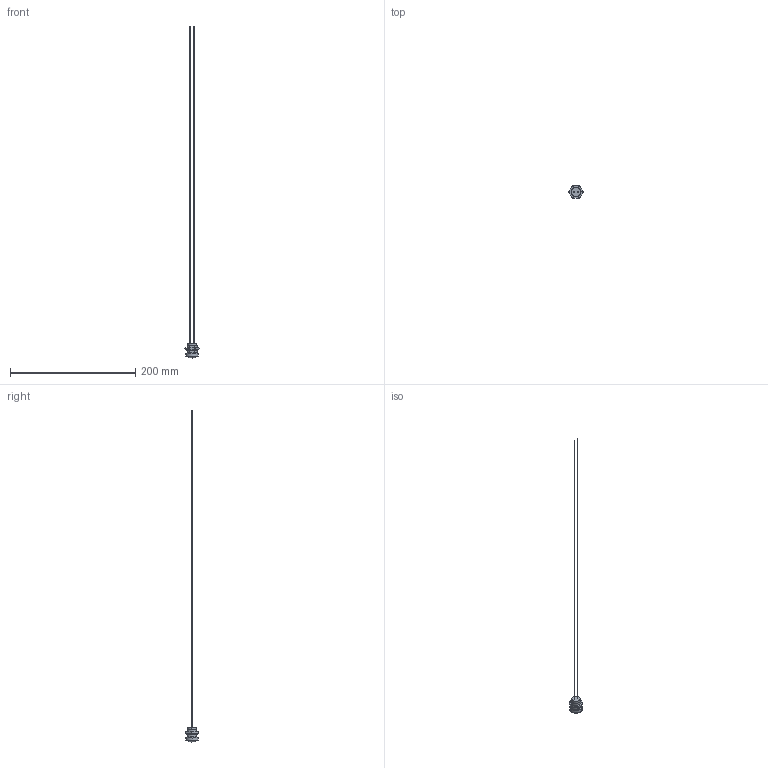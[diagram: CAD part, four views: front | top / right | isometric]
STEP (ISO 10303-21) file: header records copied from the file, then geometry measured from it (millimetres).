
FILE_DESCRIPTION (( 'STEP AP214' ), '1' );
FILE_NAME ('49-5911X.STEP', '2015-07-02T11:13:27', ( 'Admin' ), ( 'Microsoft' ), 'SwSTEP 2.0', 'SolidWorks 2015', '' );
FILE_SCHEMA (( 'AUTOMOTIVE_DESIGN' ));
Length unit declared in the file: millimetre
Products named in the file (2): 49-5911X
Bounding box: 23.09 x 20 x 529.9 mm (x, y, z)
Volume: 5966.8 mm3; surface area: 5310.2 mm2
Topology: 1 solids, 1 shells, 58 faces, 142 edges, 91 vertices
Faces by surface type: plane 22, cylinder 18, cone 14, bspline 4
Entity records: 2140 total; most frequent: CARTESIAN_POINT 471, ORIENTED_EDGE 280, DIRECTION 274, EDGE_CURVE 140, AXIS2_PLACEMENT_3D 110, VERTEX_POINT 91, EDGE_LOOP 65, FACE_OUTER_BOUND 58
